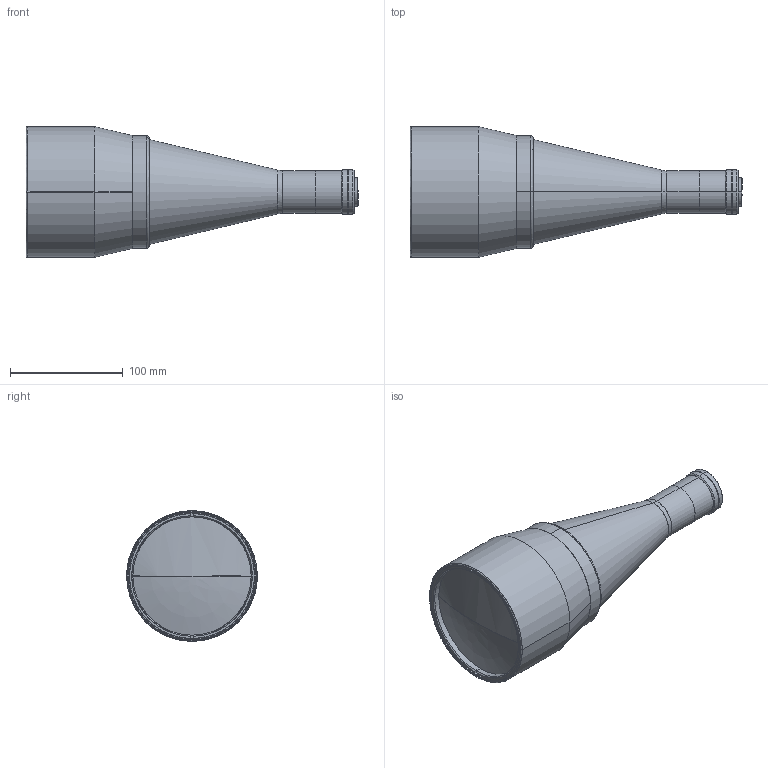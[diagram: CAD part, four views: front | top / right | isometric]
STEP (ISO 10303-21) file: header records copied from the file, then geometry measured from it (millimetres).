
FILE_DESCRIPTION(('LS-TCL-0246'),'2;1');
FILE_NAME('LS-TCL-0246.stp','2026-10-15T21:55:00',('LumaSpec Vision'),('LumaSpec Vision'),'LumaSpec Vision','LumaSpec Vision','');
FILE_SCHEMA(('AUTOMOTIVE_DESIGN { 1 0 10303 214 1 1 1 1 }'));
Length unit declared in the file: millimetre
Products named in the file (70): LumaSpec Vision
Assembly tree (69 placements, depth 2):
  LumaSpec Vision
    LumaSpec Vision
    LumaSpec Vision
    LumaSpec Vision
    LumaSpec Vision
    LumaSpec Vision
    LumaSpec Vision
    LumaSpec Vision
    LumaSpec Vision
    LumaSpec Vision
    LumaSpec Vision
    LumaSpec Vision
    LumaSpec Vision
    LumaSpec Vision
    LumaSpec Vision
    LumaSpec Vision
    LumaSpec Vision
    LumaSpec Vision
    LumaSpec Vision
    LumaSpec Vision
    LumaSpec Vision
    LumaSpec Vision
    LumaSpec Vision
    LumaSpec Vision
    LumaSpec Vision
    LumaSpec Vision
    LumaSpec Vision
    LumaSpec Vision
    LumaSpec Vision
    LumaSpec Vision
    LumaSpec Vision
    LumaSpec Vision
    LumaSpec Vision
    LumaSpec Vision
    LumaSpec Vision
    LumaSpec Vision
    LumaSpec Vision
    LumaSpec Vision
    LumaSpec Vision
    LumaSpec Vision
    LumaSpec Vision
    LumaSpec Vision
    LumaSpec Vision
    LumaSpec Vision
    LumaSpec Vision
    LumaSpec Vision
    LumaSpec Vision
    LumaSpec Vision
    LumaSpec Vision
    LumaSpec Vision
    LumaSpec Vision
    LumaSpec Vision
    LumaSpec Vision
    LumaSpec Vision
    LumaSpec Vision
    LumaSpec Vision
    LumaSpec Vision
    LumaSpec Vision
    LumaSpec Vision
    LumaSpec Vision
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Bounding box: 294.81 x 116 x 116 mm (x, y, z)
Surface area: 99122.3 mm2 (no closed solid volume)
Topology: 0 solids, 69 shells, 69 faces, 1748 edges, 1745 vertices
Faces by surface type: revolution 44, bspline 25
Entity records: 28255 total; most frequent: CARTESIAN_POINT 11915, B_SPLINE_CURVE_WITH_KNOTS 3258, ORIENTED_EDGE 1745, EDGE_CURVE 1745, VERTEX_POINT 1745, SURFACE_CURVE 1745, PCURVE 1745, DEFINITIONAL_REPRESENTATION 1745
